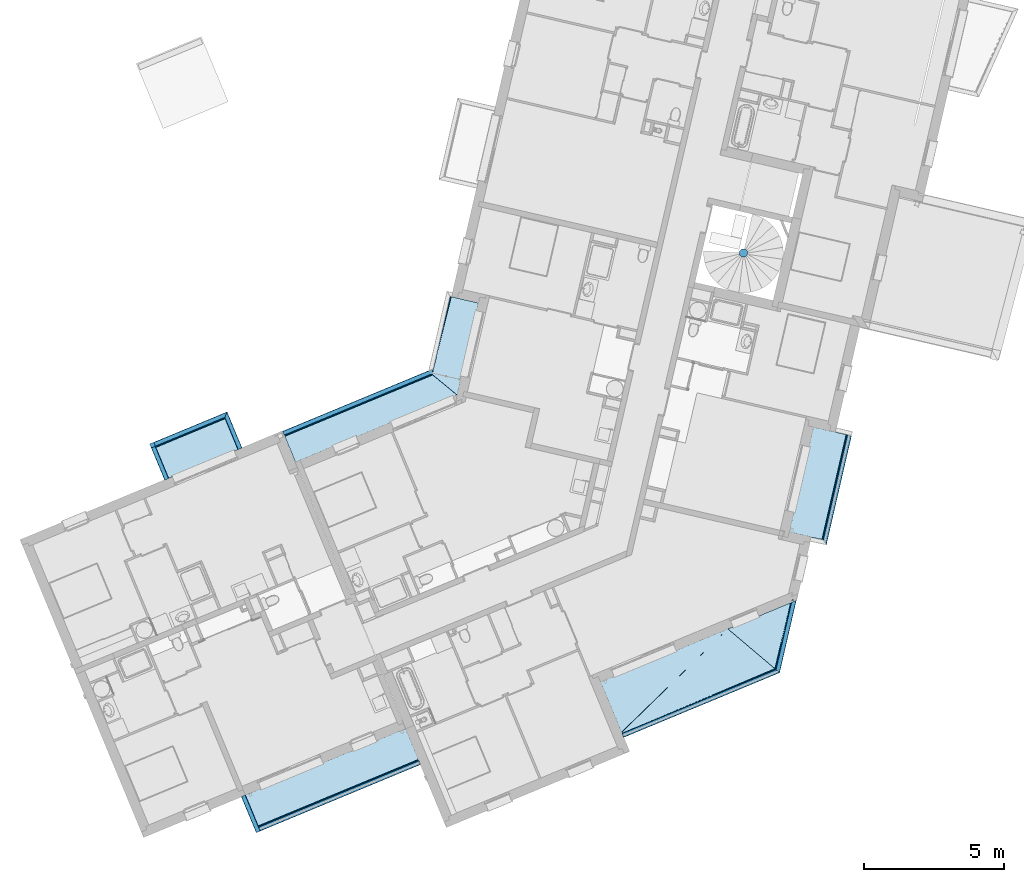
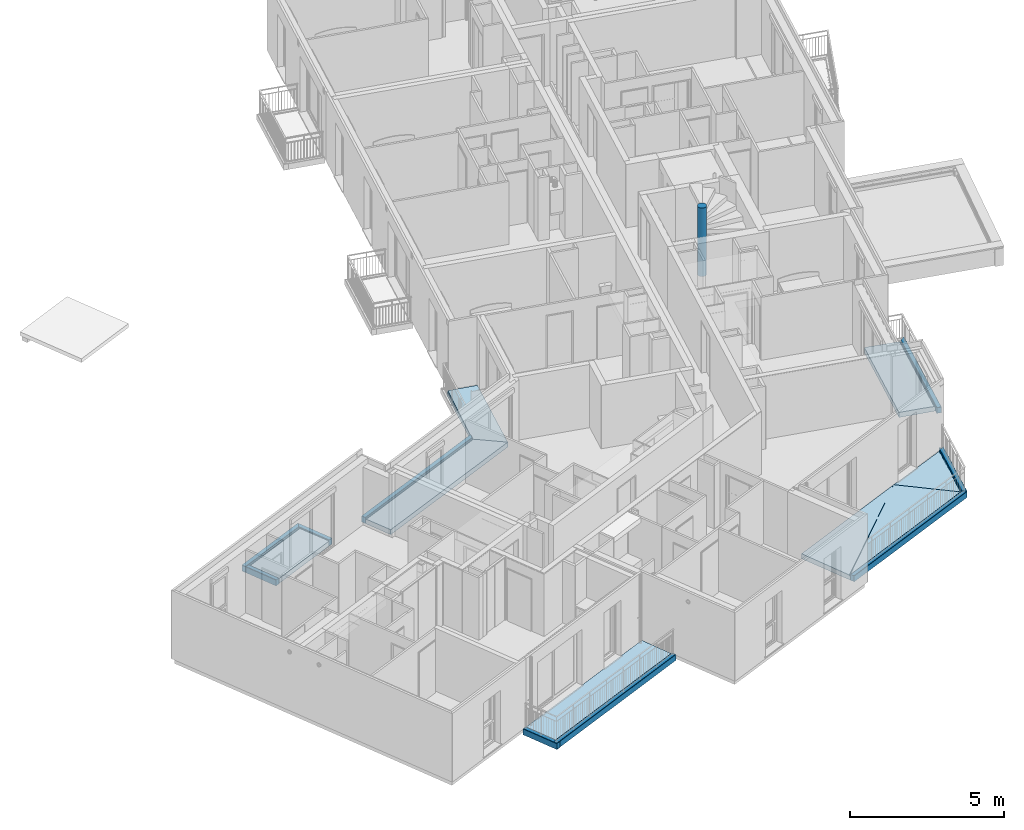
# One storey, part 2 of 90: 16 slabs, 1 member.
"""IFC2X3 building model written with IfcOpenShell, lengths in metres."""

from ifc_helpers import new_model, entity, si_unit, converted_unit, derived_unit, money_unit, direction, frame, origin_with_axes, place, context, subcontext, project, spatial, faceted_brep, material, type_object, element, save


model = new_model("IFC2X3")

# Units and contexts
model_context = context("Model", 3, precision=1e-05, world=origin_with_axes(), true_north=direction((0.0, 1.0)))
body_context = subcontext(model_context, "Body", "Model", "MODEL_VIEW")
ifc_project = project(units=[si_unit("LENGTHUNIT", "METRE"), si_unit("AREAUNIT", "SQUARE_METRE"), si_unit("VOLUMEUNIT", "CUBIC_METRE"), converted_unit("PLANEANGLEUNIT", "DEGREE", entity("IfcPlaneAngleMeasure", 0.0174532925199), si_unit("PLANEANGLEUNIT", "RADIAN"), dimensions=[0, 0, 0, 0, 0, 0, 0]), si_unit("SOLIDANGLEUNIT", "STERADIAN"), money_unit("EUR"), converted_unit("TIMEUNIT", "Year", entity("IfcTimeMeasure", 31556926.0), si_unit("TIMEUNIT", "SECOND"), dimensions=[0, 0, 1, 0, 0, 0, 0]), si_unit("MASSUNIT", "GRAM", prefix="KILO"), si_unit("THERMODYNAMICTEMPERATUREUNIT", "DEGREE_CELSIUS"), si_unit("LUMINOUSINTENSITYUNIT", "LUMEN"), si_unit("ENERGYUNIT", "JOULE", prefix="MEGA"), derived_unit("THERMALCONDUCTANCEUNIT", [(si_unit("POWERUNIT", "WATT"), 1), (si_unit("LENGTHUNIT", "METRE"), -1), (si_unit("THERMODYNAMICTEMPERATUREUNIT", "KELVIN"), -1)]), derived_unit("SPECIFICHEATCAPACITYUNIT", [(si_unit("ENERGYUNIT", "JOULE"), 1), (si_unit("MASSUNIT", "GRAM", prefix="KILO"), -1), (si_unit("THERMODYNAMICTEMPERATUREUNIT", "KELVIN"), -1)]), derived_unit("MASSDENSITYUNIT", [(si_unit("MASSUNIT", "GRAM", prefix="KILO"), 1), (si_unit("VOLUMEUNIT", "CUBIC_METRE"), -1)])], contexts=[model_context])

# Site, building, storey
site_placement = place(None, origin_with_axes())
site = spatial("IfcSite", under=ifc_project, at=site_placement, Name="Site", CompositionType="ELEMENT")
building_placement = place(site_placement, origin_with_axes())
building = spatial("IfcBuilding", under=site, at=building_placement, Name="Bâtiment", CompositionType="ELEMENT")
storey_placement = place(building_placement, frame((0.0, 0.0, 2.72), z_axis=(0.0, 0.0, 1.0), x_axis=(1.0, 0.0, 0.0)))
storey = spatial("IfcBuildingStorey", under=building, at=storey_placement, Name="R+1", CompositionType="ELEMENT", Elevation=2.72)

# Member
ifc_material = material(Name="Béton")
member_type = type_object("IfcMemberType", Name="Béton D300", PredefinedType="USERDEFINED")
member_placement = place(storey_placement, frame((-9.52980076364, -7.68659305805, 0.0), z_axis=(0.0, 0.0, 1.0), x_axis=(0.0549398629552, 0.998489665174, 0.0)))
element("IfcMember", 1, at=member_placement, inside=storey, type_object=member_type, material=ifc_material, Name="Pot-001", ObjectType="STAIR_STRUCTURE", context=body_context, shape_type="Brep", body=[
    faceted_brep([(-0.15, 0.0, 2.72), (-0.15, 0.0, 0.0), (-0.146239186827, -0.0333781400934, 0.0), (-0.146239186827, -0.0333781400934, 2.72), (-0.146239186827, 0.0333781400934, 2.72), (-0.146239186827, 0.0333781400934, 0.0), (-0.135145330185, 0.0650825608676, 0.0), (-0.11727472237, 0.0935234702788, 0.0), (-0.0935234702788, 0.11727472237, 0.0), (-0.0650825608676, 0.135145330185, 0.0), (-0.0333781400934, 0.146239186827, 0.0), (0.0, 0.15, 0.0), (0.0333781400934, 0.146239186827, 0.0), (0.0650825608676, 0.135145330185, 0.0), (0.0935234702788, 0.11727472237, 0.0), (0.11727472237, 0.0935234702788, 0.0), (0.135145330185, 0.0650825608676, 0.0), (0.146239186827, 0.0333781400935, 0.0), (0.15, 0.0, 0.0), (0.146239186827, -0.0333781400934, 0.0), (0.135145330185, -0.0650825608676, 0.0), (0.11727472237, -0.0935234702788, 0.0), (0.0935234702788, -0.11727472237, 0.0), (0.0650825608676, -0.135145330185, 0.0), (0.0333781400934, -0.146239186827, 0.0), (0.0, -0.15, 0.0), (-0.0333781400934, -0.146239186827, 0.0), (-0.0650825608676, -0.135145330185, 0.0), (-0.0935234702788, -0.11727472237, 0.0), (-0.11727472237, -0.0935234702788, 0.0), (-0.135145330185, -0.0650825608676, 0.0), (-0.135145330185, -0.0650825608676, 2.72), (-0.11727472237, -0.0935234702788, 2.72), (-0.0935234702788, -0.11727472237, 2.72), (-0.0650825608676, -0.135145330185, 2.72), (-0.0333781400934, -0.146239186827, 2.72), (0.0, -0.15, 2.72), (0.0333781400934, -0.146239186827, 2.72), (0.0650825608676, -0.135145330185, 2.72), (0.0935234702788, -0.11727472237, 2.72), (0.11727472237, -0.0935234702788, 2.72), (0.135145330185, -0.0650825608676, 2.72), (0.146239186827, -0.0333781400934, 2.72), (0.15, 0.0, 2.72), (0.146239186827, 0.0333781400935, 2.72), (0.135145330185, 0.0650825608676, 2.72), (0.11727472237, 0.0935234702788, 2.72), (0.0935234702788, 0.11727472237, 2.72), (0.0650825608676, 0.135145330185, 2.72), (0.0333781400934, 0.146239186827, 2.72), (0.0, 0.15, 2.72), (-0.0333781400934, 0.146239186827, 2.72), (-0.0650825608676, 0.135145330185, 2.72), (-0.0935234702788, 0.11727472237, 2.72), (-0.11727472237, 0.0935234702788, 2.72), (-0.135145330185, 0.0650825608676, 2.72)], [[[0, 1, 2, 3]], [[4, 5, 1, 0]], [[2, 1, 5, 6, 7, 8, 9, 10, 11, 12, 13, 14, 15, 16, 17, 18, 19, 20, 21, 22, 23, 24, 25, 26, 27, 28, 29, 30]], [[3, 2, 30, 31]], [[4, 0, 3, 31, 32, 33, 34, 35, 36, 37, 38, 39, 40, 41, 42, 43, 44, 45, 46, 47, 48, 49, 50, 51, 52, 53, 54, 55]], [[55, 6, 5, 4]], [[54, 7, 6, 55]], [[53, 8, 7, 54]], [[52, 9, 8, 53]], [[51, 10, 9, 52]], [[50, 11, 10, 51]], [[49, 12, 11, 50]], [[48, 13, 12, 49]], [[47, 14, 13, 48]], [[46, 15, 14, 47]], [[45, 16, 15, 46]], [[44, 17, 16, 45]], [[43, 18, 17, 44]], [[42, 19, 18, 43]], [[41, 20, 19, 42]], [[40, 21, 20, 41]], [[39, 22, 21, 40]], [[38, 23, 22, 39]], [[37, 24, 23, 38]], [[36, 25, 24, 37]], [[35, 26, 25, 36]], [[34, 27, 26, 35]], [[33, 28, 27, 34]], [[32, 29, 28, 33]], [[31, 30, 29, 32]]]),
])

# Slabs
slab_type_1 = type_object("IfcSlabType", Name="Nez de balcon 160 x 239", PredefinedType="USERDEFINED")
slab_1_placement = place(storey_placement, frame((-5.62822290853, -14.0694469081, -0.22), z_axis=(0.0, 0.0, 1.0), x_axis=(-0.224876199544, -0.974387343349, 0.0)))
element("IfcSlab", 2, at=slab_1_placement, inside=storey, type_object=slab_type_1, material=ifc_material, Name="Nez-de-balcon béton", ObjectType="BALCONY", PredefinedType="USERDEFINED", context=body_context, shape_type="Brep", body=[
    faceted_brep([(4.15614141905, -0.00998052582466, 0.239376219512), (4.16772655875, -0.150019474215, 0.230623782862), (4.16840011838, -0.150605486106, 0.230000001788), (4.16596165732, 0.0, 0.230000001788), (0.0099805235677, -0.00998052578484, 0.239376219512), (0.150019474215, -0.150019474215, 0.230623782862), (0.16, -0.16, 0.22), (4.16855222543, -0.16, 0.22), (4.1663643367, -0.0248704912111, 0.00872065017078), (4.1662577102, -0.018284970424, 0.00622819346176), (4.16620452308, -0.015, 0.0), (4.16596165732, 0.0, 0.0), (4.16855222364, -0.16, 0.00872064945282), (0.150019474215, -0.000663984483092, 0.230623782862), (0.150605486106, 0.0, 0.230000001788), (4.13380668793, -0.16, 0.0), (4.13709208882, -0.16, 0.00622819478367), (4.14367847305, -0.16, 0.00872064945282), (0.16, -0.16, 0.00872064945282), (0.16, -0.16, 0.0), (0.16, 0.0, 0.22), (0.0182849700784, -0.0182849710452, 0.00622819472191), (4.14149058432, -0.0248704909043, 0.00872064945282), (0.16, -0.0248704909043, 0.00872064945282), (0.0248704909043, -0.0248704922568, 0.00872065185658), (0.015, -0.0150000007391, 0.0), (0.015, 0.0, 0.0), (0.0182849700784, 0.0, 0.00622819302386), (0.0248704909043, 0.0, 0.00872064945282), (0.16, 0.0, 0.00872065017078), (4.13177861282, -0.0347409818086, 0.0), (4.13501082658, -0.0314560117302, 0.00622819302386), (0.16, -0.0314560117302, 0.00622819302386), (0.16, -0.0347409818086, 0.0)], [[[0, 1, 2, 3]], [[1, 0, 4, 5]], [[6, 7, 2, 1, 5]], [[8, 9, 10, 11, 3, 2, 7, 12]], [[13, 4, 0, 3, 14]], [[4, 13, 5]], [[15, 16, 17, 12, 7, 6, 18, 19]], [[13, 14, 20, 6, 5]], [[21, 9, 8, 22, 23, 24]], [[25, 10, 9, 21]], [[26, 11, 10, 25]], [[14, 3, 11, 26, 27, 28, 29, 20]], [[17, 22, 8, 12]], [[15, 30, 31, 16]], [[31, 22, 17, 16]], [[6, 20, 29, 23, 18]], [[32, 33, 19, 18, 23]], [[33, 30, 15, 19]], [[23, 22, 31, 32]], [[24, 23, 29, 28]], [[24, 28, 27, 21]], [[21, 27, 26, 25]], [[32, 31, 30, 33]]]),
])
slab_2_placement = place(storey_placement, frame((-13.8185121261, -25.0128508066, -0.22), z_axis=(0.0, 0.0, 1.0), x_axis=(0.923701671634, 0.383112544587, 0.0)))
element("IfcSlab", 3, at=slab_2_placement, inside=storey, type_object=slab_type_1, material=ifc_material, Name="Nez-de-balcon béton", ObjectType="BALCONY", PredefinedType="USERDEFINED", context=body_context, shape_type="Brep", body=[
    faceted_brep([(6.06230733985, 0.0248704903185, 0.00872065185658), (6.03174979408, 0.0248704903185, 0.00872065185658), (6.12821580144, 0.16, 0.00872065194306), (6.15877334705, 0.16, 0.00872064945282), (0.0, 0.0248704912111, 0.00872065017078), (6.05760608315, 0.018284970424, 0.00622819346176), (0.0, 0.018284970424, 0.00622819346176), (6.02835964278, 0.0314560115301, 0.00622819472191), (6.12012439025, 0.16, 0.00622819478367), (6.11608825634, 0.16, 0.0), (0.0, 0.16, 0.0), (0.0, 0.16, 0.22), (6.15877334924, 0.16, 0.22), (6.15206681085, 0.150605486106, 0.230000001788), (6.0445528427, 1.10591003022e-09, 0.230000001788), (6.04455284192, 0.0, 0.0), (6.05526101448, 0.015, 0.0), (0.0, 0.0314560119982, 0.00622819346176), (0.0, 0.015, 0.0), (0.0, 0.00998052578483, 0.239376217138), (0.0, 0.150019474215, 0.230623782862), (0.0, 0.0347409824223, 0.0), (0.0, 0.0, 0.0), (0.0, 0.0, 0.23), (6.02666857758, 0.0347409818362, 0.0), (6.15083265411, 0.150019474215, 0.230623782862), (6.03941498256, 0.00998052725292, 0.239376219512)], [[[0, 1, 2, 3]], [[4, 1, 0, 5, 6]], [[7, 8, 2, 1]], [[2, 8, 9, 10, 11, 12, 3]], [[5, 0, 3, 12, 13, 14, 15, 16]], [[17, 7, 1, 4]], [[18, 6, 5, 16]], [[19, 20, 11, 10, 21, 17, 4, 6, 18, 22, 23]], [[24, 9, 8, 7]], [[10, 9, 24, 21]], [[11, 20, 25, 13, 12]], [[26, 14, 13, 25]], [[23, 22, 15, 14]], [[22, 18, 16, 15]], [[21, 24, 7, 17]], [[20, 19, 26, 25]], [[19, 23, 14, 26]]]),
])
slab_3_placement = place(storey_placement, frame((-7.63834506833, -20.1111605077, -0.22), z_axis=(0.0, 0.0, 1.0), x_axis=(-0.224876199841, -0.97438734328, 0.0)))
element("IfcSlab", 4, at=slab_3_placement, inside=storey, type_object=slab_type_1, material=ifc_material, Name="Nez-de-balcon béton", ObjectType="BALCONY", PredefinedType="USERDEFINED", context=body_context, shape_type="Brep", body=[
    faceted_brep([(0.0, -0.16, 0.0095500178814), (0.0, -0.16, 0.01), (0.0, -0.144684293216, 0.01), (0.0, -0.144684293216, 0.22), (0.0, -0.0826135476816, 0.22), (0.0, -0.0826135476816, 0.0199999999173), (0.0, -0.117035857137, 0.02), (0.0, -0.117035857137, 0.00954999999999), (0.0109833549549, -0.16, 0.22), (0.0109833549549, -0.16, 0.01), (0.0306711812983, -0.16, 0.0095500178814), (0.0306711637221, -0.16, 0.02), (0.0552444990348, -0.16, 0.0199999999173), (0.0552444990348, -0.16, 0.22)], [[[0, 1, 2, 3, 4, 5, 6, 7]], [[8, 9, 1, 0, 10, 11, 12, 13]], [[9, 2, 1]], [[9, 8, 3, 2]], [[4, 3, 8, 13]], [[5, 4, 13, 12]], [[6, 5, 12, 11]], [[6, 11, 10, 7]], [[10, 0, 7]]]),
    faceted_brep([(2.47508804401, -0.0248704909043, 0.00872064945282), (2.57155405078, -0.16, 0.00872064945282), (2.57155405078, -0.16, 0.0), (2.482134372, -0.0347409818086, 0.0), (2.47978930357, -0.0314560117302, 0.00622819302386), (2.45733354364, -2.56485499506e-10, 0.00872065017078), (2.457333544, -7.64439178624e-10, 0.22), (2.57155405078, -0.16, 0.22), (0.114220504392, -0.16, 0.00872064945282), (0.114220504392, -0.16, 0.0), (0.114220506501, -0.16, 0.22), (0.114220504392, -0.16, 0.02), (0.114220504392, -0.16, 0.0095500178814), (0.024800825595, -0.0347409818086, 0.0), (0.0224557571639, -0.0314560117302, 0.00622819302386), (0.0177544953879, -0.0248704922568, 0.00872065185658), (2.62336268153, 0.0, 0.00872064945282), (2.63145409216, 0.0, 0.00622819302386), (2.63549022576, 0.0, 0.0), (0.0, 0.0, 0.0), (0.0, 0.0, 0.00872065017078), (0.0, -4.13854728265e-09, 0.0095500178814), (0.0, -4.1385659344e-09, 0.02), (0.0, -4.13856326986e-09, 0.22), (0.0, 0.0, 0.23), (2.46887627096, -7.90884691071e-10, 0.230000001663), (2.47007028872, -0.00066398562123, 0.230623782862), (2.57669191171, -0.150019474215, 0.230623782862), (2.64111717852, -0.0248704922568, 0.00872065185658), (0.107095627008, -0.150019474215, 0.230623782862), (0.0130532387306, -0.0182849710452, 0.00622819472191), (2.64450733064, -0.0182849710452, 0.00622819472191), (2.64619839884, -0.0150000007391, 0.0), (0.0107081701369, -0.0150000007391, 0.0), (0.00712487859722, -0.0099805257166, 0.239376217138), (2.64878237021, -0.00998052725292, 0.239376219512)], [[[0, 1, 2, 3, 4]], [[5, 6, 7, 1, 0]], [[8, 9, 2, 1, 7, 10, 11, 12]], [[9, 13, 3, 2]], [[13, 14, 4, 3]], [[14, 15, 0, 4]], [[5, 16, 17, 18, 19, 20, 21, 22, 23, 24, 25, 6]], [[25, 26, 27, 7, 6]], [[5, 0, 28, 16]], [[14, 13, 9, 8, 15]], [[29, 10, 7, 27]], [[23, 22, 11, 10]], [[22, 21, 12, 11]], [[20, 15, 8, 12, 21]], [[15, 30, 31, 28, 0]], [[16, 28, 31, 17]], [[17, 31, 32, 18]], [[33, 19, 18, 32]], [[20, 19, 33, 30, 15]], [[24, 23, 10, 29, 34]], [[24, 34, 35, 26, 25]], [[27, 26, 35]], [[34, 29, 27, 35]], [[30, 33, 32, 31]]]),
])
slab_4_placement = place(storey_placement, frame((-27.4902659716, -27.1262282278, -0.22), z_axis=(0.0, 0.0, 1.0), x_axis=(0.383112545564, -0.923701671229, 0.0)))
element("IfcSlab", 5, at=slab_4_placement, inside=storey, type_object=slab_type_1, material=ifc_material, Name="Nez-de-balcon béton", ObjectType="BALCONY", PredefinedType="USERDEFINED", context=body_context, shape_type="Brep", body=[
    faceted_brep([(1.3751295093, 0.16, 0.0187206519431), (1.36854398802, 0.16, 0.0162281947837), (1.36525901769, 0.16, 0.00999999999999), (1.38500000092, 0.16, 0.00999999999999), (1.40000000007, 0.160000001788, 0.00999999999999), (1.40000000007, 0.160000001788, 0.0), (0.0, 0.16, 0.0), (0.0, 0.16, 0.22), (1.40000000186, 0.16, 0.22), (1.40000000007, 0.160000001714, 0.0187206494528), (1.36854398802, -1.78814474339e-09, 0.0162281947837), (1.3751295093, -1.78813763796e-09, 0.0187206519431), (1.36525901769, -1.78814474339e-09, 0.00999999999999), (1.38500000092, -1.78814474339e-09, 0.00999999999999), (1.40000000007, -1.78813763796e-09, 0.00999999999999), (1.40000000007, -1.78813763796e-09, 0.0), (1.40000000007, 0.015, 0.0), (1.40000000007, 0.018284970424, 0.00622819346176), (1.40000000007, 0.0248704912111, 0.00872065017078), (1.40000000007, 0.0314560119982, 0.00622819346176), (1.40000000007, 0.0347409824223, 0.0), (0.0, 0.0347409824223, 0.0), (0.0, 0.00998052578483, 0.239376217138), (0.0, 0.150019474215, 0.230623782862), (0.0, 0.0314560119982, 0.00622819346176), (0.0, 0.0248704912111, 0.00872065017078), (0.0, 0.018284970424, 0.00622819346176), (0.0, 0.015, 0.0), (0.0, 0.0, 0.0), (0.0, 0.0, 0.23), (1.40000000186, 0.150019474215, 0.230623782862), (1.40000000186, 0.0, 0.23), (1.40000000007, -1.71726100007e-09, 0.0187206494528), (1.40000000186, 0.00998052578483, 0.239376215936)], [[[0, 1, 2, 3, 4, 5, 6, 7, 8, 9]], [[10, 1, 0, 11]], [[12, 2, 1, 10]], [[12, 13, 3, 2]], [[4, 3, 13, 14]], [[5, 4, 14, 15, 16, 17, 18, 19, 20]], [[21, 6, 5, 20]], [[22, 23, 7, 6, 21, 24, 25, 26, 27, 28, 29]], [[7, 23, 30, 8]], [[31, 32, 9, 8, 30, 33]], [[32, 11, 0, 9]], [[12, 10, 11, 32, 31, 29, 28, 15, 14, 13]], [[28, 27, 16, 15]], [[27, 26, 17, 16]], [[26, 25, 18, 17]], [[25, 24, 19, 18]], [[24, 21, 20, 19]], [[23, 22, 33, 30]], [[22, 29, 31, 33]]]),
])
slab_5_placement = place(storey_placement, frame((-26.9539084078, -28.4194105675, -0.21), z_axis=(0.0, 0.0, 1.0), x_axis=(0.923701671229, 0.383112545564, 0.0)))
element("IfcSlab", 6, at=slab_5_placement, inside=storey, type_object=slab_type_1, material=ifc_material, Name="Nez-de-balcon béton", ObjectType="BALCONY", PredefinedType="USERDEFINED", context=body_context, shape_type="Brep", body=[
    faceted_brep([(-1.78813053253e-09, 0.015, 0.0), (-1.78813053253e-09, 0.0, 0.0), (0.0, 0.0, 0.00872065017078), (-1.78813053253e-09, 0.0248704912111, 0.00872065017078), (-1.78813763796e-09, 0.018284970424, 0.00622819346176), (6.36608839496, 0.0, 0.0), (6.36608839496, 0.015, 0.0), (0.16, 0.0, 0.00872065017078), (6.36608839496, 0.0, 0.23), (0.0, 1.78168413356e-09, 0.230000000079), (0.0, 1.78168413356e-09, 0.229376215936), (0.00998052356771, 0.0, 0.229376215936), (0.150019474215, 7.34413418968e-10, 0.220623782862), (0.16, 6.93319179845e-10, 0.21), (0.16, 0.0248704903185, 0.00872065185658), (6.36608839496, 0.018284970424, 0.00622819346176), (6.36608839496, 0.0248704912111, 0.00872065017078), (6.36608839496, 0.0314560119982, 0.00622819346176), (6.36608839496, 0.0347409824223, 0.0), (6.36608839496, 0.16, 0.0), (6.36608839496, 0.16, 0.22), (6.36608839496, 0.150019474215, 0.230623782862), (6.36608839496, 0.00998052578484, 0.239376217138), (0.0, 0.00998052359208, 0.239376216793), (0.0, 0.151191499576, 0.229376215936), (0.0, 0.150019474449, 0.230623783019), (0.0099805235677, 0.151191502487, 0.229376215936), (0.150019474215, 0.159413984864, 0.220623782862), (0.150605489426, 0.16, 0.219999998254), (0.16, 0.16, 0.21), (0.16, 0.16, 0.0), (0.16, 0.0347409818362, 0.0), (0.16, 0.0314560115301, 0.00622819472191)], [[[0, 1, 2, 3, 4]], [[5, 1, 0, 6]], [[7, 2, 1, 5, 8, 9, 10, 11, 12, 13]], [[14, 3, 2, 7]], [[15, 4, 3, 14, 16]], [[6, 0, 4, 15]], [[17, 18, 19, 20, 21, 22, 8, 5, 6, 15, 16]], [[22, 23, 9, 8]], [[24, 10, 9, 23, 25]], [[26, 11, 10, 24]], [[27, 12, 11, 26]], [[12, 27, 28, 29, 13]], [[29, 30, 31, 32, 14, 7, 13]], [[16, 14, 32, 17]], [[17, 32, 31, 18]], [[18, 31, 30, 19]], [[29, 28, 20, 19, 30]], [[27, 26, 24, 25, 21, 20, 28]], [[21, 25, 23, 22]]]),
])
slab_6_placement = place(storey_placement, frame((-27.9944025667, -13.3674069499, -0.21), z_axis=(0.0, 0.0, 1.0), x_axis=(-0.923701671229, -0.383112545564, 0.0)))
element("IfcSlab", 7, at=slab_6_placement, inside=storey, type_object=slab_type_1, material=ifc_material, Name="Nez-de-balcon béton", ObjectType="BALCONY", PredefinedType="USERDEFINED", context=body_context, shape_type="Brep", body=[
    faceted_brep([(3.00000000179, 0.16, 0.0), (0.0347409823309, 0.16, 0.0), (0.0314560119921, 0.16, 0.00622819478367), (0.0248704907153, 0.16, 0.00872065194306), (0.0, 0.16, 0.00872064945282), (-1.78813408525e-09, 0.16, 0.22), (3.00000000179, 0.16, 0.219999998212), (3.00000000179, 0.0347409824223, 0.0), (0.0347409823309, 0.0347409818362, 0.0), (0.0314560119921, 0.0314560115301, 0.00622819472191), (0.0248704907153, 0.0248704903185, 0.00872065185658), (0.0, 0.0248704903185, 0.00872065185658), (-1.78813408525e-09, 0.018284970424, 0.00622819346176), (-1.78813053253e-09, 0.015, 0.0), (-1.78813053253e-09, 0.0, 0.0), (-1.78813053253e-09, 0.0, 0.230000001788), (-1.78813053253e-09, 0.150605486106, 0.230000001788), (3.0, 0.150019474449, 0.230623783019), (3.0, 0.151191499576, 0.229376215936), (2.99001947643, 0.151191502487, 0.229376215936), (0.000663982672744, 0.150019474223, 0.230623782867), (3.00000000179, 0.0314560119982, 0.00622819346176), (3.00000000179, 0.0, 0.219999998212), (3.00000000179, 0.0, 0.0), (3.00000000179, 0.015, 0.0), (3.00000000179, 0.018284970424, 0.00622819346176), (3.00000000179, 0.0248704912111, 0.00872065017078), (2.99001947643, 0.0, 0.229376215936), (3.0, 1.78168590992e-09, 0.229376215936), (3.0, 1.78168590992e-09, 0.230000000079), (0.00998052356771, 0.00998052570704, 0.239376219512), (3.0, 0.00998052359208, 0.239376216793)], [[[0, 1, 2, 3, 4, 5, 6]], [[7, 8, 1, 0]], [[9, 2, 1, 8]], [[9, 10, 3, 2]], [[4, 3, 10, 11]], [[5, 4, 11, 12, 13, 14, 15, 16]], [[17, 18, 19, 6, 5, 16, 20]], [[21, 7, 0, 6, 22, 23, 24, 25, 26]], [[21, 9, 8, 7]], [[26, 10, 9, 21]], [[12, 11, 10, 26, 25]], [[13, 12, 25, 24]], [[14, 13, 24, 23]], [[23, 22, 27, 28, 29, 15, 14]], [[15, 30, 20, 16]], [[31, 29, 28, 18, 17]], [[28, 27, 19, 18]], [[27, 22, 6, 19]], [[31, 17, 20, 30]], [[29, 31, 30, 15]]]),
])
slab_7_placement = place(storey_placement, frame((-27.9944025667, -13.3674069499, -0.21), z_axis=(0.0, 0.0, 1.0), x_axis=(0.383112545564, -0.923701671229, 0.0)))
element("IfcSlab", 8, at=slab_7_placement, inside=storey, type_object=slab_type_1, material=ifc_material, Name="Nez-de-balcon béton", ObjectType="BALCONY", PredefinedType="USERDEFINED", context=body_context, shape_type="Brep", body=[
    faceted_brep([(0.16, -0.16, 0.22), (0.16, -0.16, 0.00872064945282), (0.16, -0.16, 0.0), (1.40000000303, -0.16, 0.0), (1.40000000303, -0.16, 0.22), (0.16, -0.0248704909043, 0.00872064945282), (0.16, 0.0, 0.22), (0.16, 0.0, 0.00872065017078), (0.16, -0.0314560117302, 0.00622819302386), (0.16, -0.0347409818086, 0.0), (1.40000000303, -0.0347409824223, 0.0), (1.40000000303, -0.150019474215, 0.230623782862), (1.40000000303, -0.0314560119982, 0.00622819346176), (1.40000000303, -0.0248704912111, 0.00872065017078), (1.40000000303, -0.018284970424, 0.00622819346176), (1.40000000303, -0.015, 0.0), (1.40000000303, 0.0, 0.0), (1.40000000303, 0.0, 0.23), (1.40000000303, -0.00998052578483, 0.239376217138), (0.150019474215, -0.150019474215, 0.230623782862), (0.150019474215, -0.000663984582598, 0.230623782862), (0.150605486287, 0.0, 0.230000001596), (0.015, 0.0, 0.0), (0.0182849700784, 0.0, 0.00622819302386), (0.0248704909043, 0.0, 0.00872064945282), (0.0248704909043, -0.0248704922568, 0.00872065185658), (0.0182849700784, -0.0182849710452, 0.00622819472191), (0.015, -0.0150000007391, 0.0), (0.0099805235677, -0.00998052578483, 0.239376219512)], [[[0, 1, 2, 3, 4]], [[5, 1, 0, 6, 7]], [[8, 9, 2, 1, 5]], [[3, 2, 9, 10]], [[11, 4, 3, 10, 12, 13, 14, 15, 16, 17, 18]], [[11, 19, 0, 4]], [[6, 0, 19, 20, 21]], [[16, 22, 23, 24, 7, 6, 21, 17]], [[24, 25, 5, 7]], [[10, 9, 8, 12]], [[5, 13, 12, 8]], [[13, 5, 25, 26, 14]], [[14, 26, 27, 15]], [[15, 27, 22, 16]], [[20, 28, 18, 17, 21]], [[18, 28, 19, 11]], [[20, 19, 28]], [[22, 27, 26, 23]], [[23, 26, 25, 24]]]),
])
slab_8_placement = place(storey_placement, frame((-30.7655075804, -14.5167445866, -0.22), z_axis=(0.0, 0.0, 1.0), x_axis=(0.383112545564, -0.923701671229, 0.0)))
element("IfcSlab", 9, at=slab_8_placement, inside=storey, type_object=slab_type_1, material=ifc_material, Name="Nez-de-balcon béton", ObjectType="BALCONY", PredefinedType="USERDEFINED", context=body_context, shape_type="Brep", body=[
    faceted_brep([(0.16, 0.160000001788, 0.01), (0.16, 0.160000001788, 0.0187206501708), (0.16, 0.16, 0.22), (1.39999999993, 0.16, 0.22), (1.39999999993, 0.16, 0.0), (0.0, 0.160000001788, 0.0), (0.0, 0.160000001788, 0.01), (0.014999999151, 0.160000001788, 0.01), (0.0347409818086, 0.160000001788, 0.01), (0.16, 0.0, 0.01), (0.16, 0.0, 0.0187206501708), (0.16, 0.0, 0.23), (0.16, 0.150605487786, 0.23), (0.159413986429, 0.150019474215, 0.230623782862), (1.39999999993, 0.150019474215, 0.230623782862), (1.39999999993, 0.0248704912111, 0.00872065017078), (1.39999999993, 0.0314560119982, 0.00622819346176), (1.39999999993, 0.0347409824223, 0.0), (1.39999999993, 0.00998052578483, 0.239376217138), (1.39999999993, 0.0, 0.23), (1.39999999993, 0.0, 0.0), (1.39999999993, 0.015, 0.0), (1.39999999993, 0.018284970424, 0.00622819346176), (0.0, 0.0347409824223, 0.0), (0.0, -1.78813763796e-09, 0.0), (0.0, -1.78813763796e-09, 0.01), (0.0, 0.0314560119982, 0.00622819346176), (0.0, 0.0248704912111, 0.00872065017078), (0.0, 0.018284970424, 0.00622819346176), (0.0, 0.015, 0.0), (0.014999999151, 0.0, 0.01), (0.0347409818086, 0.0, 0.01), (0.151191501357, 0.00998052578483, 0.239376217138)], [[[0, 1, 2, 3, 4, 5, 6, 7, 8]], [[9, 10, 1, 0]], [[11, 12, 2, 1, 10]], [[2, 12, 13, 14, 3]], [[15, 16, 17, 4, 3, 14, 18, 19, 20, 21, 22]], [[4, 17, 23, 5]], [[24, 25, 6, 5, 23, 26, 27, 28, 29]], [[25, 30, 7, 6]], [[30, 31, 8, 7]], [[9, 0, 8, 31]], [[19, 11, 10, 9, 31, 30, 25, 24, 20]], [[32, 13, 12, 11]], [[14, 13, 32, 18]], [[16, 15, 27, 26]], [[17, 16, 26, 23]], [[18, 32, 11, 19]], [[21, 20, 24, 29]], [[22, 21, 29, 28]], [[15, 22, 28, 27]]]),
])
slab_9_placement = place(storey_placement, frame((-26.0072946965, -14.0588791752, -0.21), z_axis=(0.0, 0.0, 1.0), x_axis=(0.923701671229, 0.383112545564, 0.0)))
element("IfcSlab", 10, at=slab_9_placement, inside=storey, type_object=slab_type_1, material=ifc_material, Name="Nez-de-balcon béton", ObjectType="BALCONY", PredefinedType="USERDEFINED", context=body_context, shape_type="Brep", body=[
    faceted_brep([(5.82108586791, -0.0248704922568, 0.00872065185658), (5.65505672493, -0.0248704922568, 0.00872065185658), (5.67281122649, 0.0, 0.00872065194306), (5.83884036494, 0.0, 0.00872064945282), (0.0, -0.0248704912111, 0.00872065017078), (5.81638460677, -0.0314560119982, 0.00622819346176), (0.0, -0.0314560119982, 0.00622819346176), (5.65166657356, -0.0182849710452, 0.00622819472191), (5.6647198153, 0.0, 0.00622819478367), (5.66068368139, 0.0, 0.0), (0.0, 0.0, 0.0), (0.0, 0.0, 0.23), (5.82729764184, 0.0, 0.23), (5.83884036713, 0.0, 0.219999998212), (5.72461985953, -0.16, 0.219999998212), (5.72461985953, -0.16, 0.0), (5.81403953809, -0.0347409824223, 0.0), (0.0, -0.018284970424, 0.00622819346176), (0.0, -0.0347409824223, 0.0), (0.0, -0.16, 0.0), (0.0, -0.16, 0.22), (0.0, -0.150019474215, 0.230623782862), (0.0, -0.00998052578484, 0.239376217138), (0.0, -0.015, 0.0), (5.64997550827, -0.0150000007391, 0.0), (5.64739155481, -0.00998050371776, 0.239376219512), (5.82610362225, -0.000663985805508, 0.230623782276), (5.71948199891, -0.150019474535, 0.230623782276)], [[[0, 1, 2, 3]], [[4, 1, 0, 5, 6]], [[7, 8, 2, 1]], [[2, 8, 9, 10, 11, 12, 13, 3]], [[5, 0, 3, 13, 14, 15, 16]], [[17, 7, 1, 4]], [[18, 6, 5, 16]], [[6, 18, 19, 20, 21, 22, 11, 10, 23, 17, 4]], [[24, 9, 8, 7]], [[10, 9, 24, 23]], [[22, 25, 26, 12, 11]], [[27, 14, 13, 12, 26]], [[20, 19, 15, 14]], [[19, 18, 16, 15]], [[23, 24, 7, 17]], [[21, 20, 14, 27]], [[22, 21, 27, 25]], [[25, 27, 26]]]),
])
slab_type_2 = type_object("IfcSlabType", Name="Béton", PredefinedType="USERDEFINED")
slab_10_placement = place(storey_placement, frame((-27.3424737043, -28.2103202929, -0.21), z_axis=(0.0, 0.0, 1.0), x_axis=(1.0, 0.0, 0.0)))
element("IfcSlab", 11, at=slab_10_placement, inside=storey, type_object=slab_type_2, material=ifc_material, Name="Dalle de balcon béton", ObjectType="BALCONY", PredefinedType="USERDEFINED", context=body_context, shape_type="Brep", body=[
    faceted_brep([(6.19230927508, 2.41457838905, 0.185321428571), (5.73257422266, 3.52302038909, 0.19827310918), (0.0, 1.14539007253, 0.198273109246), (0.459735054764, 0.0369480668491, 0.185321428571), (5.73257422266, 3.52302038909, 0.0), (6.19614040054, 2.40534137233, 0.16), (6.2076337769, 2.3776303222, 0.16), (6.2076337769, 2.3776303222, 0.0), (0.0, 1.14539007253, 0.0), (0.475059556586, 0.0, 0.0), (0.475059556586, 0.0, 0.16), (0.463566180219, 0.0277110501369, 0.16)], [[[0, 1, 2, 3]], [[4, 1, 0, 5, 6, 7]], [[8, 2, 1, 4]], [[9, 10, 11, 3, 2, 8]], [[5, 0, 3, 11]], [[11, 10, 6, 5]], [[7, 6, 10, 9]], [[7, 9, 8, 4]]]),
])
slab_11_placement = place(storey_placement, frame((-10.0897756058, -22.5808700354, -0.22), z_axis=(0.0, 0.0, 1.0), x_axis=(1.0, 0.0, 0.0)))
element("IfcSlab", 12, at=slab_11_placement, inside=storey, type_object=slab_type_2, material=ifc_material, Name="Dalle de balcon béton", ObjectType="BALCONY", PredefinedType="USERDEFINED", context=body_context, shape_type="Brep", body=[
    faceted_brep([(1.68290227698, 0.0290591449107, 0.185321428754), (2.24220245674, 2.38293055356, 0.175417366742), (0.0, 1.45295942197, 0.198273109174), (1.69155247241, 0.0217402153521, 0.16), (0.0, 1.45295942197, 0.0), (2.24920558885, 2.38583513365, 0.16), (2.2698430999, 2.39439470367, 0.16), (2.2698430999, 2.39439470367, 0.0), (1.71724723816, 0.0, 0.0), (1.71724723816, 0.0, 0.16)], [[[0, 1, 2]], [[0, 3, 1]], [[4, 2, 1, 5, 6, 7]], [[8, 9, 3, 0, 2, 4]], [[3, 9, 1]], [[5, 1, 9]], [[6, 5, 9]], [[7, 6, 9, 8]], [[4, 7, 8]]]),
])
slab_12_placement = place(storey_placement, frame((-20.6581557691, -12.7690366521, -0.21), z_axis=(0.0, 0.0, 1.0), x_axis=(1.0, 0.0, 0.0)))
element("IfcSlab", 13, at=slab_12_placement, inside=storey, type_object=slab_type_2, material=ifc_material, Name="Dalle de balcon béton", ObjectType="BALCONY", PredefinedType="USERDEFINED", context=body_context, shape_type="Brep", body=[
    faceted_brep([(0.892968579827, 0.0, 0.196026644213), (1.65272022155, 3.29199959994, 0.196027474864), (0.0, 0.755538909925, 0.16), (1.65272022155, 3.29199959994, 0.0), (0.892968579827, 0.0, 0.0), (0.678332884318, 3.51687579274, 0.18532141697), (0.0114934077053, 0.727827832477, 0.160000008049), (0.63935736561, 3.52587083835, 0.0), (0.63935736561, 3.52587083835, 0.16), (0.668588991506, 3.51912454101, 0.160000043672), (0.0153245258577, 0.71859082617, 0.185321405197), (0.0153245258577, 0.71859082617, 0.0), (0.0, 0.755538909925, 0.0)], [[[0, 1, 2]], [[3, 1, 0, 4]], [[1, 5, 2]], [[6, 0, 2]], [[7, 8, 9, 5, 1, 3]], [[4, 0, 10, 11]], [[12, 7, 3, 4, 11]], [[5, 9, 2]], [[10, 0, 6]], [[11, 10, 6, 2, 12]], [[12, 2, 8, 7]], [[9, 8, 2]]]),
])
slab_13_placement = place(storey_placement, frame((-14.6460352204, -24.8650585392, -0.22), z_axis=(0.0, 0.0, 1.0), x_axis=(1.0, 0.0, 0.0)))
element("IfcSlab", 14, at=slab_13_placement, inside=storey, type_object=slab_type_2, material=ifc_material, Name="Dalle de balcon béton", ObjectType="BALCONY", PredefinedType="USERDEFINED", context=body_context, shape_type="Brep", body=[
    faceted_brep([(6.23916191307, 2.31324768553, 0.185321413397), (4.55625963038, 3.73714793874, 0.198273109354), (0.766225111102, 0.0, 0.16), (4.55625963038, 3.73714793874, 0.0), (6.24774819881, 2.3059828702, 0.16), (6.27350686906, 2.28418851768, 0.16), (6.27350686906, 2.28418851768, 0.0), (0.754731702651, 0.0277110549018, 0.16), (0.0, 1.84740337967, 0.0), (0.0, 1.84740337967, 0.198273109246), (0.766225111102, 0.0, 0.0), (0.750900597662, 0.0369480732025, 0.185321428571)], [[[0, 1, 2]], [[3, 1, 0, 4, 5, 6]], [[7, 2, 1]], [[4, 0, 2]], [[8, 9, 1, 3]], [[5, 4, 2]], [[6, 5, 2, 10]], [[8, 3, 6, 10]], [[10, 2, 7, 11, 9, 8]], [[11, 7, 1]], [[9, 11, 1]]]),
])
slab_14_placement = place(storey_placement, frame((-30.5564173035, -15.7486289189, -0.21), z_axis=(0.0, 0.0, 1.0), x_axis=(1.0, 0.0, 0.0)))
element("IfcSlab", 15, at=slab_14_placement, inside=storey, type_object=slab_type_2, material=ifc_material, Name="Dalle de balcon béton", ObjectType="BALCONY", PredefinedType="USERDEFINED", context=body_context, shape_type="Brep", body=[
    faceted_brep([(0.0153245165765, 1.10844198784, 0.185321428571), (0.475059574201, 0.0, 0.198273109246), (2.95058003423, 1.02674159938, 0.198273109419), (2.49084497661, 2.13518363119, 0.185321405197), (0.475059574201, 0.0, 0.0), (0.0114933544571, 1.11767903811, 0.16), (0.0, 1.14539005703, 0.16), (0.0, 1.14539005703, 0.0), (2.95058003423, 1.02674159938, 0.0), (2.47552046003, 2.17213170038, 0.0), (2.47552046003, 2.17213170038, 0.16), (2.48701385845, 2.1444206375, 0.160000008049)], [[[0, 1, 2, 3]], [[4, 1, 0, 5, 6, 7]], [[8, 2, 1, 4]], [[9, 10, 11, 3, 2, 8]], [[5, 0, 3, 11]], [[6, 5, 11, 10]], [[7, 6, 10, 9]], [[7, 9, 8, 4]]]),
])
slab_15_placement = place(storey_placement, frame((-25.9459966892, -15.1673211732, -0.21), z_axis=(0.0, 0.0, 1.0), x_axis=(1.0, 0.0, 0.0)))
element("IfcSlab", 16, at=slab_15_placement, inside=storey, type_object=slab_type_2, material=ifc_material, Name="Dalle de balcon béton", ObjectType="BALCONY", PredefinedType="USERDEFINED", context=body_context, shape_type="Brep", body=[
    faceted_brep([(6.18080951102, 2.39828452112, 0.196026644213), (5.30316544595, 3.11687534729, 0.185321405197), (0.0153245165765, 0.92370166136, 0.185321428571), (0.398437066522, 0.0, 0.196028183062), (5.30316544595, 3.11687534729, 0.0), (6.18080951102, 2.39828452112, 0.0), (0.0114933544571, 0.932938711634, 0.16), (5.2993343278, 3.12611235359, 0.160000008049), (0.398437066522, 0.0, 0.0), (0.0, 0.960649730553, 0.16), (0.0, 0.960649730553, 0.0), (5.28784092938, 3.15382341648, 0.0), (5.28784092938, 3.15382341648, 0.16)], [[[0, 1, 2, 3]], [[4, 1, 0, 5]], [[6, 2, 1, 7]], [[8, 3, 2, 6, 9, 10]], [[5, 0, 3, 8]], [[11, 12, 7, 1, 4]], [[10, 11, 4, 5, 8]], [[9, 6, 7, 12]], [[10, 9, 12, 11]]]),
])
slab_16_placement = place(storey_placement, frame((-7.89623031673, -17.9393288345, -0.22), z_axis=(0.0, 0.0, 1.0), x_axis=(1.0, 0.0, 0.0)))
element("IfcSlab", 17, at=slab_16_placement, inside=storey, type_object=slab_type_2, material=ifc_material, Name="Dalle de balcon béton", ObjectType="BALCONY", PredefinedType="USERDEFINED", context=body_context, shape_type="Brep", body=[
    faceted_brep([(2.07612521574, 3.74996012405, 0.16), (2.04689361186, 3.75670640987, 0.160000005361), (1.18145053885, 0.0067462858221, 0.16), (1.21068214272, 0.0, 0.16), (0.867495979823, 4.02889639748, 0.0), (0.867495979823, 4.02889639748, 0.198273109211), (1.1636949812, 3.96053745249, 0.198928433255), (1.88924471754, 3.79308977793, 0.190891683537), (2.03714976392, 3.75895521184, 0.185321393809), (2.07612521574, 3.74996012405, 0.0), (1.1717066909, 0.00899502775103, 0.185321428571), (1.21068214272, 0.0, 0.0), (1.1717066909, 0.00899502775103, 0.0), (0.0, 0.272943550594, 0.0), (0.0, 0.272943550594, 0.198273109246), (0.78049529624, 0.0926349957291, 0.2), (0.78049529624, 0.0926349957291, 0.0)], [[[0, 1, 2, 3]], [[4, 5, 6, 7, 8, 1, 0, 9]], [[1, 8, 10, 2]], [[11, 3, 2, 10, 12]], [[9, 0, 3, 11]], [[13, 14, 5, 4]], [[5, 14, 15, 6]], [[7, 6, 15]], [[15, 10, 8, 7]], [[4, 9, 11, 12, 16, 13]], [[12, 10, 15, 16]], [[16, 15, 14, 13]]]),
])

save(model, "model.ifc")
